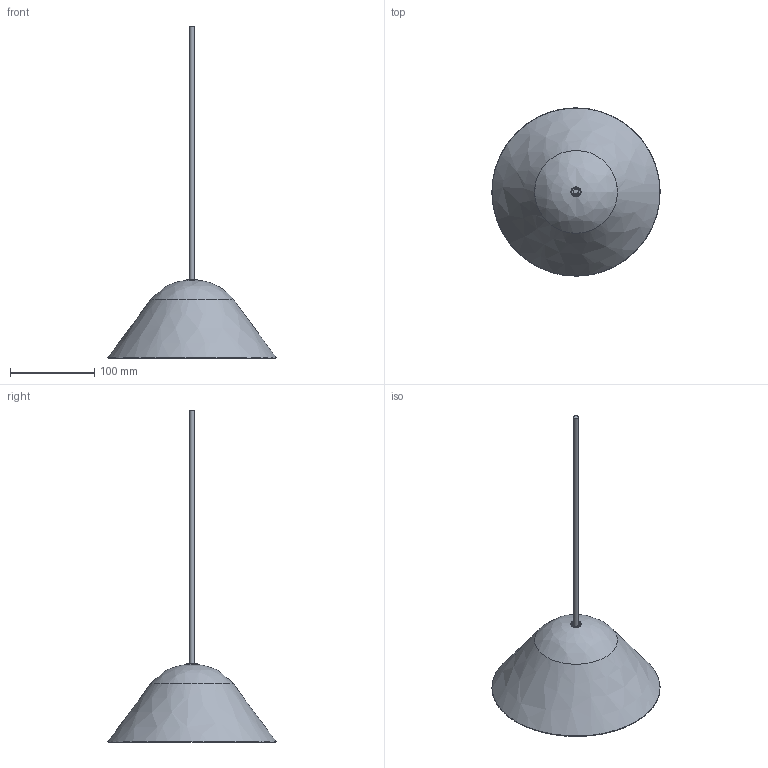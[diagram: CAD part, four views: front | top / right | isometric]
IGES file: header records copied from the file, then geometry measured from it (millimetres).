
Global section: file name: CassisSmall200mmBrass; native system: unknown; preprocessor: unknown; author: unknown; organization: unknown; date: 20230906.144923; units: millimetre
Bounding box: 199.02 x 199.01 x 393 mm (x, y, z)
Volume: 186172.7 mm3; surface area: 140688 mm2
Topology: 6 solids, 6 shells, 35 faces, 67 edges, 45 vertices
Faces by surface type: bspline 35
